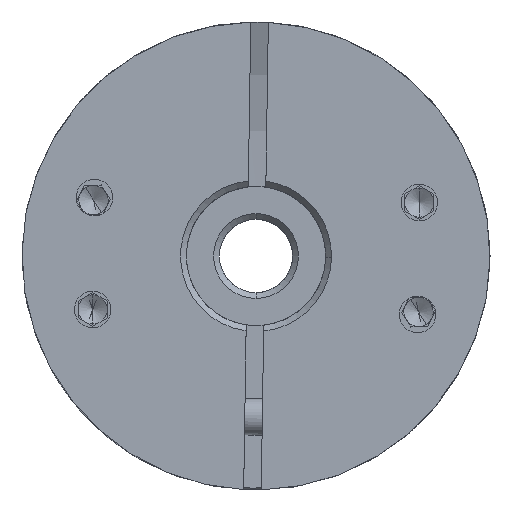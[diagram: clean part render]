
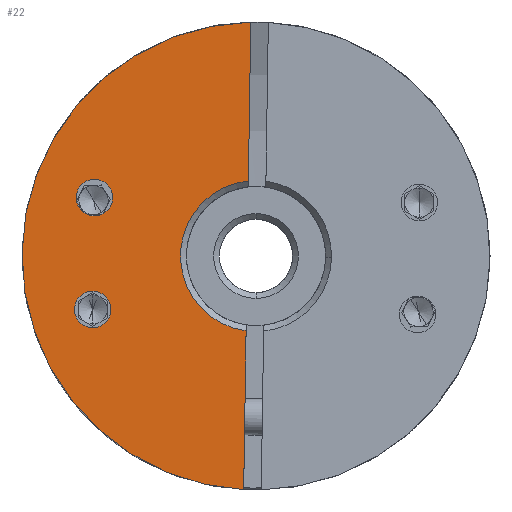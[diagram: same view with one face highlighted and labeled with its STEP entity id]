
A CAD part, front view. The second image highlights one B-rep face of the part: STEP entity #22.
In plain terms, the highlighted planar face has unit normal (0, -1, 0).
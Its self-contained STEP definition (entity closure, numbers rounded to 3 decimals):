
#22 = ADVANCED_FACE ( 'NONE', ( #8682, #1644, #16506 ), #5356, .T. ) ;
#540 = VERTEX_POINT ( 'NONE', #737 ) ;
#737 = CARTESIAN_POINT ( 'NONE',  ( -59.856, -19.411, -5.118 ) ) ;
#1335 = DIRECTION ( 'NONE',  ( 0., 1., 0. ) ) ;
#1506 = CIRCLE ( 'NONE', #6039, 1.25 ) ;
#1644 = FACE_BOUND ( 'NONE', #20758, .T. ) ;
#1735 = DIRECTION ( 'NONE',  ( 1., 0., -0.015 ) ) ;
#2796 = AXIS2_PLACEMENT_3D ( 'NONE', #6924, #3026, #17838 ) ;
#2935 = LINE ( 'NONE', #13184, #22188 ) ;
#3026 = DIRECTION ( 'NONE',  ( 0., 1., 0. ) ) ;
#3399 = CARTESIAN_POINT ( 'NONE',  ( -69.095, -19.411, -3.675 ) ) ;
#3547 = EDGE_CURVE ( 'NONE', #16951, #23392, #11990, .T. ) ;
#4862 = AXIS2_PLACEMENT_3D ( 'NONE', #19756, #7009, #16266 ) ;
#4881 = CARTESIAN_POINT ( 'NONE',  ( -70.229, -19.411, 3.994 ) ) ;
#5039 = DIRECTION ( 'NONE',  ( 1., 0., -0.015 ) ) ;
#5070 = CARTESIAN_POINT ( 'NONE',  ( -70.229, -19.411, 3.994 ) ) ;
#5356 = PLANE ( 'NONE',  #18630 ) ;
#6039 = AXIS2_PLACEMENT_3D ( 'NONE', #5070, #23725, #7016 ) ;
#6584 = EDGE_CURVE ( 'NONE', #16951, #17341, #8890, .T. ) ;
#6924 = CARTESIAN_POINT ( 'NONE',  ( -59.178, -19.411, 0. ) ) ;
#7009 = DIRECTION ( 'NONE',  ( 0., -1., 0. ) ) ;
#7016 = DIRECTION ( 'NONE',  ( 1., 0., -0.015 ) ) ;
#8053 = EDGE_CURVE ( 'NONE', #14612, #14905, #8826, .T. ) ;
#8682 = FACE_OUTER_BOUND ( 'NONE', #13472, .T. ) ;
#8826 = CIRCLE ( 'NONE', #19766, 1.25 ) ;
#8848 = ORIENTED_EDGE ( 'NONE', *, *, #8053, .T. ) ;
#8890 = CIRCLE ( 'NONE', #23308, 16. ) ;
#9088 = EDGE_CURVE ( 'NONE', #15222, #20082, #1506, .T. ) ;
#9284 = EDGE_CURVE ( 'NONE', #20082, #15222, #20796, .T. ) ;
#9422 = CARTESIAN_POINT ( 'NONE',  ( -75.176, -19.411, 0.243 ) ) ;
#9773 = DIRECTION ( 'NONE',  ( -0.015, 0., -1. ) ) ;
#9904 = ORIENTED_EDGE ( 'NONE', *, *, #19888, .T. ) ;
#10954 = ORIENTED_EDGE ( 'NONE', *, *, #3547, .F. ) ;
#11009 = DIRECTION ( 'NONE',  ( 0., -1., 0. ) ) ;
#11616 = AXIS2_PLACEMENT_3D ( 'NONE', #13037, #24100, #1735 ) ;
#11935 = CARTESIAN_POINT ( 'NONE',  ( -59.178, -19.411, 0. ) ) ;
#11990 = LINE ( 'NONE', #17051, #21000 ) ;
#12908 = DIRECTION ( 'NONE',  ( 1., 0., -0.015 ) ) ;
#13037 = CARTESIAN_POINT ( 'NONE',  ( -70.345, -19.411, -3.656 ) ) ;
#13129 = CARTESIAN_POINT ( 'NONE',  ( -70.345, -19.411, -3.656 ) ) ;
#13184 = CARTESIAN_POINT ( 'NONE',  ( -59.687, -19.411, 6.008 ) ) ;
#13472 = EDGE_LOOP ( 'NONE', ( #23929, #23519, #10954, #16357, #9904 ) ) ;
#13486 = ORIENTED_EDGE ( 'NONE', *, *, #9088, .T. ) ;
#13532 = DIRECTION ( 'NONE',  ( 0., -1., 0. ) ) ;
#13991 = AXIS2_PLACEMENT_3D ( 'NONE', #4881, #1335, #5039 ) ;
#14612 = VERTEX_POINT ( 'NONE', #19648 ) ;
#14905 = VERTEX_POINT ( 'NONE', #3399 ) ;
#14976 = CARTESIAN_POINT ( 'NONE',  ( -68.979, -19.411, 3.975 ) ) ;
#14979 = DIRECTION ( 'NONE',  ( 0., 1., 0. ) ) ;
#15186 = CIRCLE ( 'NONE', #11616, 1.25 ) ;
#15222 = VERTEX_POINT ( 'NONE', #19731 ) ;
#15466 = DIRECTION ( 'NONE',  ( 1., 0., -0.015 ) ) ;
#16266 = DIRECTION ( 'NONE',  ( 1., 0., -0.015 ) ) ;
#16357 = ORIENTED_EDGE ( 'NONE', *, *, #6584, .T. ) ;
#16506 = FACE_BOUND ( 'NONE', #22991, .T. ) ;
#16584 = VERTEX_POINT ( 'NONE', #17996 ) ;
#16690 = ORIENTED_EDGE ( 'NONE', *, *, #19656, .T. ) ;
#16951 = VERTEX_POINT ( 'NONE', #21358 ) ;
#17051 = CARTESIAN_POINT ( 'NONE',  ( -59.687, -19.411, 6.008 ) ) ;
#17341 = VERTEX_POINT ( 'NONE', #9422 ) ;
#17838 = DIRECTION ( 'NONE',  ( 1., 0., -0.015 ) ) ;
#17996 = CARTESIAN_POINT ( 'NONE',  ( -60.021, -19.411, -15.978 ) ) ;
#18630 = AXIS2_PLACEMENT_3D ( 'NONE', #22157, #11009, #24005 ) ;
#18702 = DIRECTION ( 'NONE',  ( -0.015, 0., -1. ) ) ;
#18705 = CIRCLE ( 'NONE', #4862, 16. ) ;
#19648 = CARTESIAN_POINT ( 'NONE',  ( -71.595, -19.411, -3.637 ) ) ;
#19656 = EDGE_CURVE ( 'NONE', #14905, #14612, #15186, .T. ) ;
#19731 = CARTESIAN_POINT ( 'NONE',  ( -71.479, -19.411, 4.013 ) ) ;
#19756 = CARTESIAN_POINT ( 'NONE',  ( -59.178, -19.411, 0. ) ) ;
#19766 = AXIS2_PLACEMENT_3D ( 'NONE', #13129, #14979, #12908 ) ;
#19888 = EDGE_CURVE ( 'NONE', #17341, #16584, #18705, .T. ) ;
#20082 = VERTEX_POINT ( 'NONE', #14976 ) ;
#20699 = EDGE_CURVE ( 'NONE', #540, #16584, #2935, .T. ) ;
#20758 = EDGE_LOOP ( 'NONE', ( #13486, #21941 ) ) ;
#20796 = CIRCLE ( 'NONE', #13991, 1.25 ) ;
#21000 = VECTOR ( 'NONE', #18702, 1000. ) ;
#21358 = CARTESIAN_POINT ( 'NONE',  ( -59.535, -19.411, 15.996 ) ) ;
#21479 = EDGE_CURVE ( 'NONE', #540, #23392, #24186, .T. ) ;
#21941 = ORIENTED_EDGE ( 'NONE', *, *, #9284, .T. ) ;
#22157 = CARTESIAN_POINT ( 'NONE',  ( -59.178, -19.411, 0. ) ) ;
#22188 = VECTOR ( 'NONE', #9773, 1000. ) ;
#22991 = EDGE_LOOP ( 'NONE', ( #8848, #16690 ) ) ;
#23308 = AXIS2_PLACEMENT_3D ( 'NONE', #11935, #13532, #15466 ) ;
#23392 = VERTEX_POINT ( 'NONE', #23416 ) ;
#23416 = CARTESIAN_POINT ( 'NONE',  ( -59.7, -19.411, 5.136 ) ) ;
#23519 = ORIENTED_EDGE ( 'NONE', *, *, #21479, .T. ) ;
#23725 = DIRECTION ( 'NONE',  ( 0., 1., 0. ) ) ;
#23929 = ORIENTED_EDGE ( 'NONE', *, *, #20699, .F. ) ;
#24005 = DIRECTION ( 'NONE',  ( 1., 0., -0.015 ) ) ;
#24100 = DIRECTION ( 'NONE',  ( 0., 1., 0. ) ) ;
#24186 = CIRCLE ( 'NONE', #2796, 5.162 ) ;
